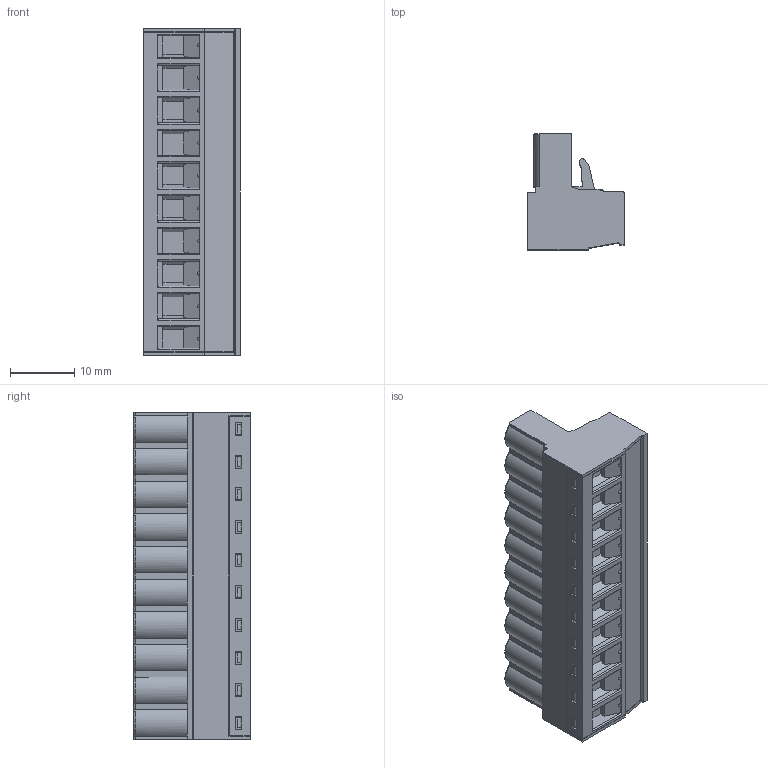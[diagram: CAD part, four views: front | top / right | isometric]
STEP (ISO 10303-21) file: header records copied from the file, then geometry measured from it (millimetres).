
FILE_DESCRIPTION(('STEP AP203'), '1');
FILE_NAME('WJ2EDGK-5.08-10P-00A', '2022-08-19T09:03:08', (''), (''), 'C3D Converter', 'C3D Toolkit', '');
FILE_SCHEMA(('CONFIG_CONTROL_DESIGN'));
Length unit declared in the file: millimetre
Products named in the file (1): KLR2GK-5.08-10P
Bounding box: 15.05 x 18.1 x 50.8 mm (x, y, z)
Volume: 8081.5 mm3; surface area: 6796.9 mm2
Topology: 1 solids, 1 shells, 1166 faces, 3245 edges, 2121 vertices
Faces by surface type: plane 813, cylinder 253, torus 40, cone 40, sphere 20
Full cylindrical faces by diameter (mm): 1.7 x10, 3 x10, 3.8 x10, 3.9 x10, 4.05 x20
Entity records: 53744 total; most frequent: CARTESIAN_POINT 15113, ORIENTED_EDGE 6210, DIRECTION 5699, EDGE_CURVE 3105, LINE 2349, VECTOR 2349, VERTEX_POINT 2111, AXIS2_PLACEMENT_3D 1675
